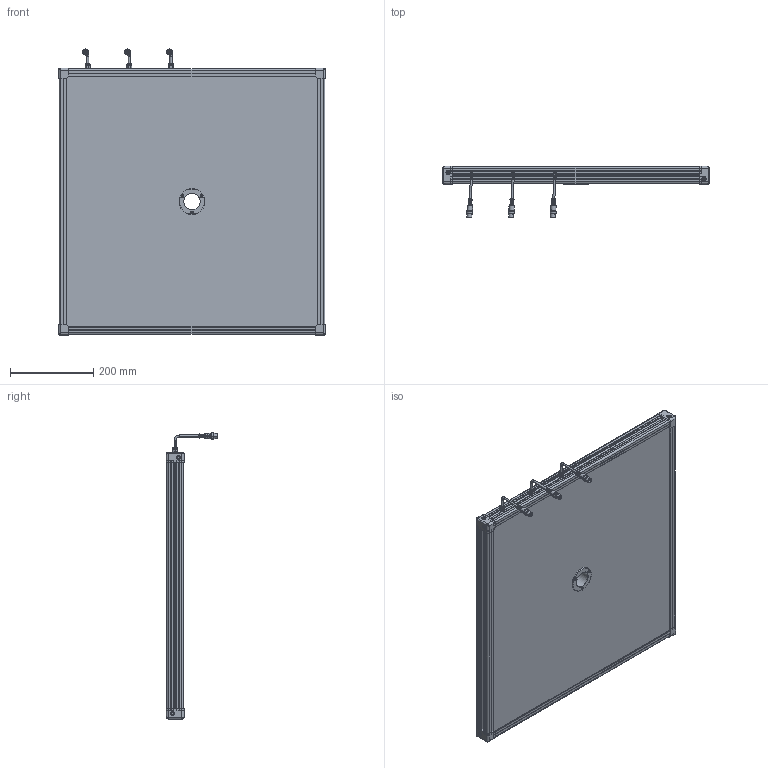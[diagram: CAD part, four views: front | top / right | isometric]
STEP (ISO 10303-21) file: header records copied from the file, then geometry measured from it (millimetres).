
FILE_DESCRIPTION (( 'STEP AP214' ), '1' );
FILE_NAME ('FD600x600.STEP', '2014-01-07T10:39:59', ( 'Effilux' ), ( '' ), 'SwSTEP 2.0', 'SolidWorks 2010', '' );
FILE_SCHEMA (( 'AUTOMOTIVE_DESIGN' ));
Length unit declared in the file: millimetre
Products named in the file (5): fd600x600; plaque + passage; angle + vis; cable+presse étoupe; FD600x600
Assembly tree (9 placements, depth 2):
  FD600x600
    plaque + passage
    angle + vis  x4
    cable+presse étoupe  x3
    fd600x600
Bounding box: 639.5 x 124.14 x 685.25 mm (x, y, z)
Volume: 14125165.1 mm3; surface area: 1038651.7 mm2
Topology: 1 solids, 56 shells, 1182 faces, 3087 edges, 2016 vertices
Faces by surface type: plane 546, cylinder 340, bspline 162, cone 100, torus 34
Entity records: 22095 total; most frequent: CARTESIAN_POINT 4048, DIRECTION 2929, ORIENTED_EDGE 2827, EDGE_CURVE 1473, AXIS2_PLACEMENT_3D 997, VERTEX_POINT 966, LINE 935, VECTOR 935
